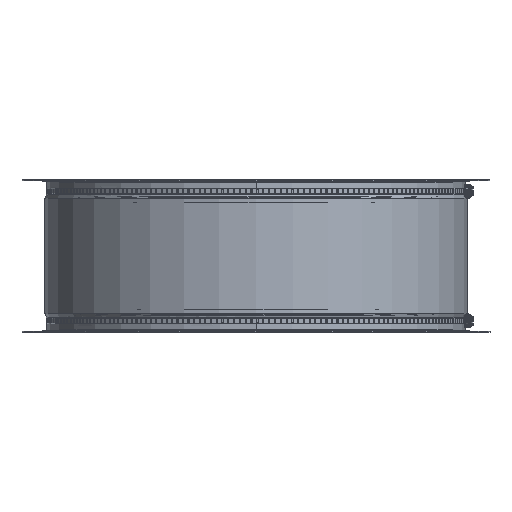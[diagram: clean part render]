
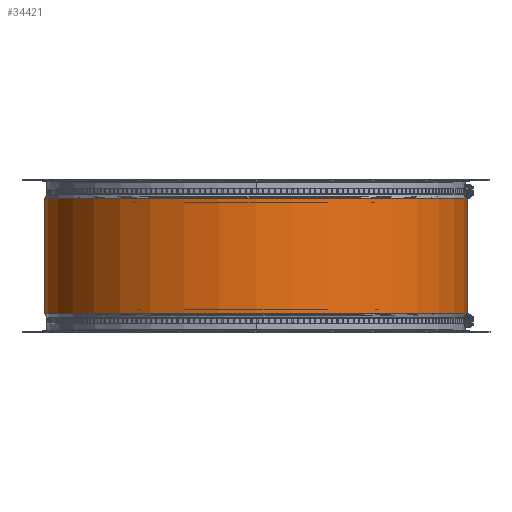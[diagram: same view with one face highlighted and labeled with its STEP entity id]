
A CAD part, front view. The second image highlights one B-rep face of the part: STEP entity #34421.
In plain terms, the highlighted cylindrical face has radius 359.5 mm (diameter 719 mm), a full revolution.
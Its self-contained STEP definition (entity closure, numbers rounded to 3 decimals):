
#8147=FACE_BOUND('',#10516,.T.);
#8457=FACE_OUTER_BOUND('',#10515,.T.);
#10515=EDGE_LOOP('',(#23191));
#10516=EDGE_LOOP('',(#23192));
#12767=CIRCLE('',#36696,359.5);
#12768=CIRCLE('',#36697,359.5);
#14193=VERTEX_POINT('',#50437);
#14194=VERTEX_POINT('',#50439);
#17764=EDGE_CURVE('',#14193,#14193,#12767,.T.);
#17765=EDGE_CURVE('',#14194,#14194,#12768,.T.);
#23191=ORIENTED_EDGE('',*,*,#17764,.F.);
#23192=ORIENTED_EDGE('',*,*,#17765,.F.);
#33478=CYLINDRICAL_SURFACE('',#36695,359.5);
#34421=ADVANCED_FACE('',(#8457,#8147),#33478,.T.);
#36695=AXIS2_PLACEMENT_3D('',#50436,#40362,#40363);
#36696=AXIS2_PLACEMENT_3D('',#50438,#40364,#40365);
#36697=AXIS2_PLACEMENT_3D('',#50440,#40366,#40367);
#40362=DIRECTION('center_axis',(0.,0.,1.));
#40363=DIRECTION('ref_axis',(-1.,0.,0.));
#40364=DIRECTION('center_axis',(0.,0.,-1.));
#40365=DIRECTION('ref_axis',(-1.,0.,0.));
#40366=DIRECTION('center_axis',(0.,0.,1.));
#40367=DIRECTION('ref_axis',(-1.,0.,0.));
#50436=CARTESIAN_POINT('Origin',(0.,0.,0.));
#50437=CARTESIAN_POINT('',(359.5,0.,-98.));
#50438=CARTESIAN_POINT('Origin',(0.,0.,-98.));
#50439=CARTESIAN_POINT('',(359.5,0.,98.));
#50440=CARTESIAN_POINT('Origin',(0.,0.,98.));
